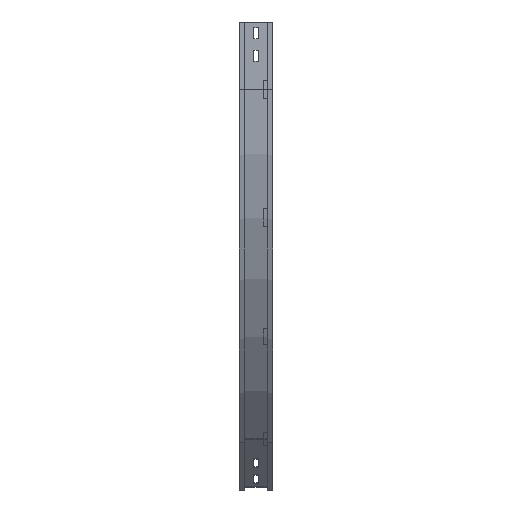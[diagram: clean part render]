
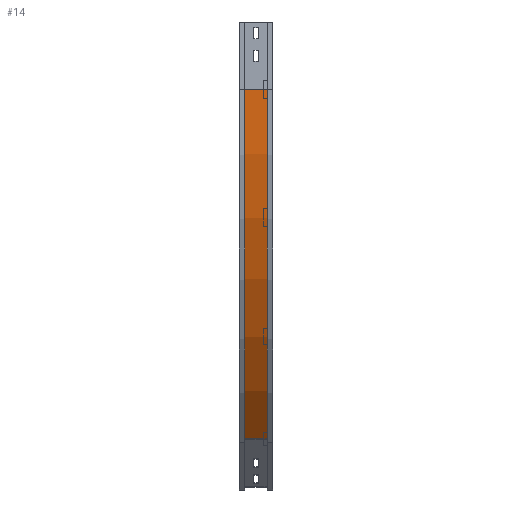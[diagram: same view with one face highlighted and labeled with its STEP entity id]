
A CAD part, left-side view. The second image highlights one B-rep face of the part: STEP entity #14.
In plain terms, the highlighted cylindrical face has radius 1100 mm (diameter 2200 mm), a partial arc.
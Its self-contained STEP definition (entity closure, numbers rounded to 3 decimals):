
#14 = ADVANCED_FACE ( 'NONE', ( #1779 ), #3356, .T. ) ;
#98 = LINE ( 'NONE', #2420, #456 ) ;
#187 = VERTEX_POINT ( 'NONE', #1083 ) ;
#275 = CARTESIAN_POINT ( 'NONE',  ( 331.183, 12., -927.817 ) ) ;
#288 = AXIS2_PLACEMENT_3D ( 'NONE', #1383, #3278, #3295 ) ;
#350 = EDGE_CURVE ( 'NONE', #187, #3140, #98, .T. ) ;
#444 = DIRECTION ( 'NONE',  ( 0., -1., 0. ) ) ;
#456 = VECTOR ( 'NONE', #842, 1000. ) ;
#476 = VECTOR ( 'NONE', #444, 1000. ) ;
#842 = DIRECTION ( 'NONE',  ( 0., -1., 0. ) ) ;
#860 = ORIENTED_EDGE ( 'NONE', *, *, #1171, .F. ) ;
#987 = CIRCLE ( 'NONE', #2892, 1100. ) ;
#1083 = CARTESIAN_POINT ( 'NONE',  ( 9., 63., -150. ) ) ;
#1140 = CARTESIAN_POINT ( 'NONE',  ( 331.183, 63., -927.817 ) ) ;
#1171 = EDGE_CURVE ( 'NONE', #3140, #3275, #1956, .T. ) ;
#1327 = ORIENTED_EDGE ( 'NONE', *, *, #2174, .T. ) ;
#1383 = CARTESIAN_POINT ( 'NONE',  ( 1109., 12., -150. ) ) ;
#1412 = EDGE_LOOP ( 'NONE', ( #860, #2442, #1687, #1327 ) ) ;
#1687 = ORIENTED_EDGE ( 'NONE', *, *, #2356, .T. ) ;
#1779 = FACE_OUTER_BOUND ( 'NONE', #1412, .T. ) ;
#1782 = AXIS2_PLACEMENT_3D ( 'NONE', #2783, #2317, #2578 ) ;
#1922 = DIRECTION ( 'NONE',  ( -1., 0., 0. ) ) ;
#1956 = CIRCLE ( 'NONE', #288, 1100. ) ;
#2045 = VERTEX_POINT ( 'NONE', #1140 ) ;
#2156 = DIRECTION ( 'NONE',  ( 0., -1., 0. ) ) ;
#2174 = EDGE_CURVE ( 'NONE', #2045, #3275, #2236, .T. ) ;
#2236 = LINE ( 'NONE', #2290, #476 ) ;
#2290 = CARTESIAN_POINT ( 'NONE',  ( 331.183, 12., -927.817 ) ) ;
#2317 = DIRECTION ( 'NONE',  ( 0., -1., 0. ) ) ;
#2356 = EDGE_CURVE ( 'NONE', #187, #2045, #987, .T. ) ;
#2420 = CARTESIAN_POINT ( 'NONE',  ( 9., 12., -150. ) ) ;
#2442 = ORIENTED_EDGE ( 'NONE', *, *, #350, .F. ) ;
#2578 = DIRECTION ( 'NONE',  ( 0., 0., -1. ) ) ;
#2707 = CARTESIAN_POINT ( 'NONE',  ( 9., 12., -150. ) ) ;
#2783 = CARTESIAN_POINT ( 'NONE',  ( 1109., 0., -150. ) ) ;
#2892 = AXIS2_PLACEMENT_3D ( 'NONE', #3218, #2156, #1922 ) ;
#3140 = VERTEX_POINT ( 'NONE', #2707 ) ;
#3218 = CARTESIAN_POINT ( 'NONE',  ( 1109., 63., -150. ) ) ;
#3275 = VERTEX_POINT ( 'NONE', #275 ) ;
#3278 = DIRECTION ( 'NONE',  ( 0., -1., 0. ) ) ;
#3295 = DIRECTION ( 'NONE',  ( -1., 0., 0. ) ) ;
#3356 = CYLINDRICAL_SURFACE ( 'NONE', #1782, 1100. ) ;
